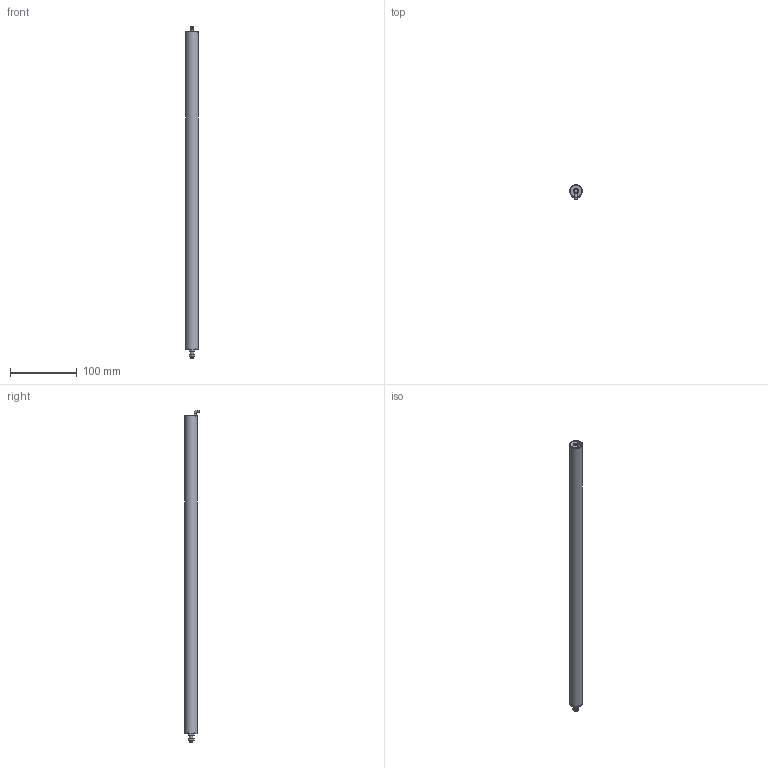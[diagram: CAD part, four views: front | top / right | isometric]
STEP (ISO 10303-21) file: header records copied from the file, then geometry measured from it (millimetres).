
FILE_DESCRIPTION(/* description */ ('ILPS-19Z-XXX-A-00-ZZ shrinkwrapped'),/* implementation_level */ '2;1');
FILE_NAME(/* name */ 'ILPS-19Z-450-A-00-ZZ shrinkwrapped.stp',/* time_stamp */ '2026-08-13T16:13:54-04:00',/* author */ ('Cameron'),/* organization */ ('hgsi'),/* preprocessor_version */ 'ST-DEVELOPER v20.1',/* originating_system */ 'Autodesk Inventor 2027',/* authorisation */ '');
FILE_SCHEMA (('AUTOMOTIVE_DESIGN { 1 0 10303 214 3 1 1 }'));
Length unit declared in the file: inch
Products named in the file (4): ILPS-19Z-250-A-00-ZZ shrinkwrapped; ILPS-19Z-450-A-00-ZZ-A shrinkwrapped body; ILPS-19Z-450 Rod; 8200-0360
Assembly tree (4 placements, depth 2):
  ILPS-19Z-250-A-00-ZZ shrinkwrapped
    ILPS-19Z-450-A-00-ZZ-A shrinkwrapped body
    ILPS-19Z-450 Rod
    8200-0360  x2
Bounding box: 19.05 x 21.89 x 497.65 mm (x, y, z)
Volume: 24845.4 mm3; surface area: 99281.4 mm2
Topology: 6 solids, 6 shells, 95 faces, 226 edges, 149 vertices
Faces by surface type: cylinder 41, plane 33, cone 16, bspline 4, torus 1
Full cylindrical faces by diameter (mm): 3.175 x2, 3.961 x2, 4.75 x1, 4.775 x1, 5 x4, 5.08 x1, 5.944 x2, 5.994 x1, 7.061 x1, 7.137 x2, 18.364 x1, 18.415 x1, 19.05 x1
Entity records: 2811 total; most frequent: CARTESIAN_POINT 1138, DIRECTION 304, ORIENTED_EDGE 302, EDGE_CURVE 151, AXIS2_PLACEMENT_3D 127, VERTEX_POINT 99, EDGE_LOOP 82, FACE_OUTER_BOUND 68
